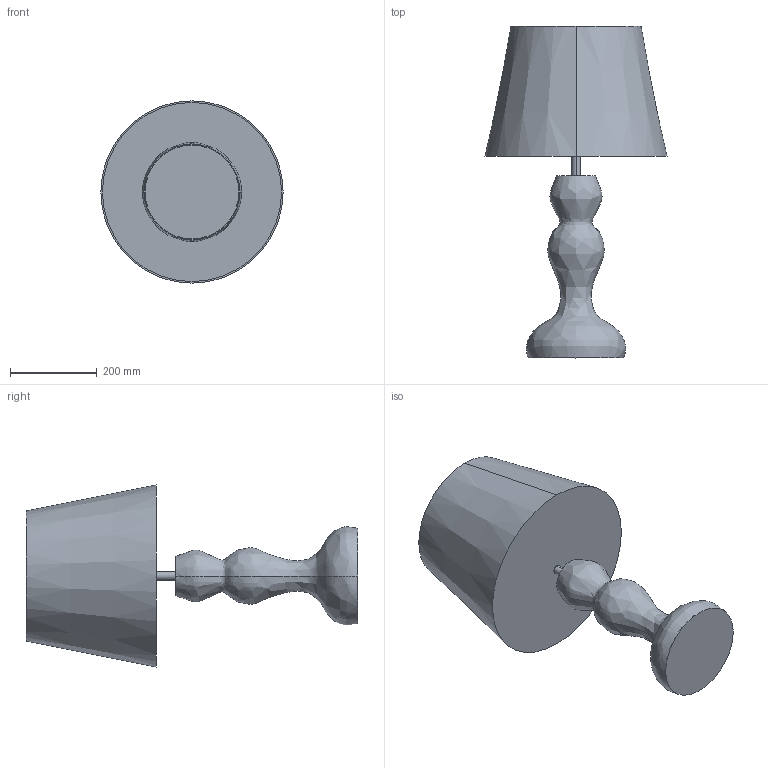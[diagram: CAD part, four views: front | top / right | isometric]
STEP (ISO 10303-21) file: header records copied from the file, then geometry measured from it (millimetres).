
FILE_DESCRIPTION (( 'STEP AP214' ), '1' );
FILE_NAME ('10.STEP', '2016-10-07T09:00:17', ( 'Tripiodiy' ), ( '' ), 'SwSTEP 2.0', 'SolidWorks 2016', '' );
FILE_SCHEMA (( 'AUTOMOTIVE_DESIGN' ));
Length unit declared in the file: millimetre
Products named in the file (1): 10
Bounding box: 420 x 764.46 x 420 mm (x, y, z)
Volume: 2096652 mm3; surface area: 1399155 mm2
Topology: 1 solids, 1 shells, 20 faces, 38 edges, 24 vertices
Faces by surface type: cone 6, plane 6, bspline 4, cylinder 4
Entity records: 1956 total; most frequent: CARTESIAN_POINT 1515, DIRECTION 92, ORIENTED_EDGE 76, AXIS2_PLACEMENT_3D 41, EDGE_CURVE 38, VERTEX_POINT 24, EDGE_LOOP 24, CIRCLE 24
